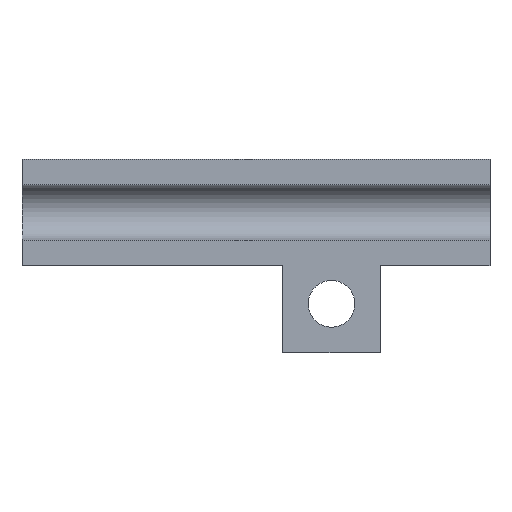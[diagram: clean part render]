
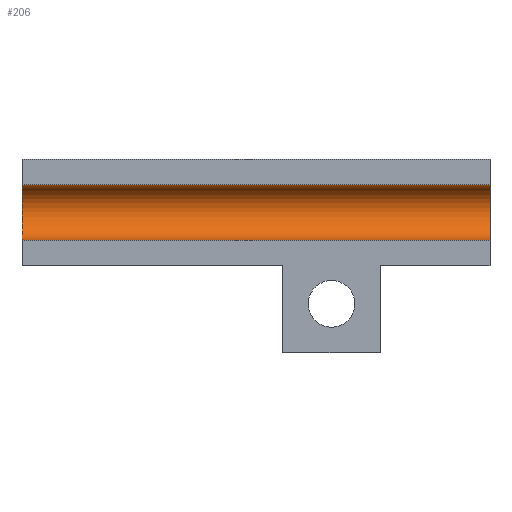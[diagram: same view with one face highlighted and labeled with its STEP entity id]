
A CAD part, top view. The second image highlights one B-rep face of the part: STEP entity #206.
In plain terms, the highlighted cylindrical face has radius 1.3 mm (diameter 2.6 mm), a partial arc.
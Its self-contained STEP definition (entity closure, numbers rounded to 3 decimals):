
#34=FACE_OUTER_BOUND('',#47,.T.);
#47=EDGE_LOOP('',(#186,#187,#188,#189));
#59=LINE('',#333,#78);
#66=LINE('',#347,#85);
#78=VECTOR('',#273,10.);
#85=VECTOR('',#282,10.);
#92=CIRCLE('',#235,1.3);
#94=CIRCLE('',#239,1.3);
#105=VERTEX_POINT('',#331);
#106=VERTEX_POINT('',#332);
#111=VERTEX_POINT('',#344);
#112=VERTEX_POINT('',#346);
#127=EDGE_CURVE('',#105,#106,#59,.T.);
#134=EDGE_CURVE('',#111,#112,#66,.T.);
#137=EDGE_CURVE('',#106,#111,#92,.T.);
#139=EDGE_CURVE('',#112,#105,#94,.T.);
#186=ORIENTED_EDGE('',*,*,#134,.F.);
#187=ORIENTED_EDGE('',*,*,#137,.F.);
#188=ORIENTED_EDGE('',*,*,#127,.F.);
#189=ORIENTED_EDGE('',*,*,#139,.F.);
#196=CYLINDRICAL_SURFACE('',#238,1.3);
#206=ADVANCED_FACE('',(#34),#196,.F.);
#235=AXIS2_PLACEMENT_3D('',#351,#288,#289);
#238=AXIS2_PLACEMENT_3D('',#354,#294,#295);
#239=AXIS2_PLACEMENT_3D('',#355,#296,#297);
#273=DIRECTION('',(-1.,0.,0.));
#282=DIRECTION('',(1.,0.,0.));
#288=DIRECTION('center_axis',(1.,0.,0.));
#289=DIRECTION('ref_axis',(0.,0.,-1.));
#294=DIRECTION('center_axis',(1.,0.,0.));
#295=DIRECTION('ref_axis',(0.,0.,-1.));
#296=DIRECTION('center_axis',(-1.,0.,0.));
#297=DIRECTION('ref_axis',(0.,0.,-1.));
#331=CARTESIAN_POINT('',(-15.2,-13.8,-8.8));
#332=CARTESIAN_POINT('',(-37.2,-13.8,-8.8));
#333=CARTESIAN_POINT('',(-24.25,-13.8,-8.8));
#344=CARTESIAN_POINT('',(-37.2,-11.2,-8.8));
#346=CARTESIAN_POINT('',(-15.2,-11.2,-8.8));
#347=CARTESIAN_POINT('',(-24.25,-11.2,-8.8));
#351=CARTESIAN_POINT('Origin',(-37.2,-12.5,-8.8));
#354=CARTESIAN_POINT('Origin',(-24.25,-12.5,-8.8));
#355=CARTESIAN_POINT('Origin',(-15.2,-12.5,-8.8));
